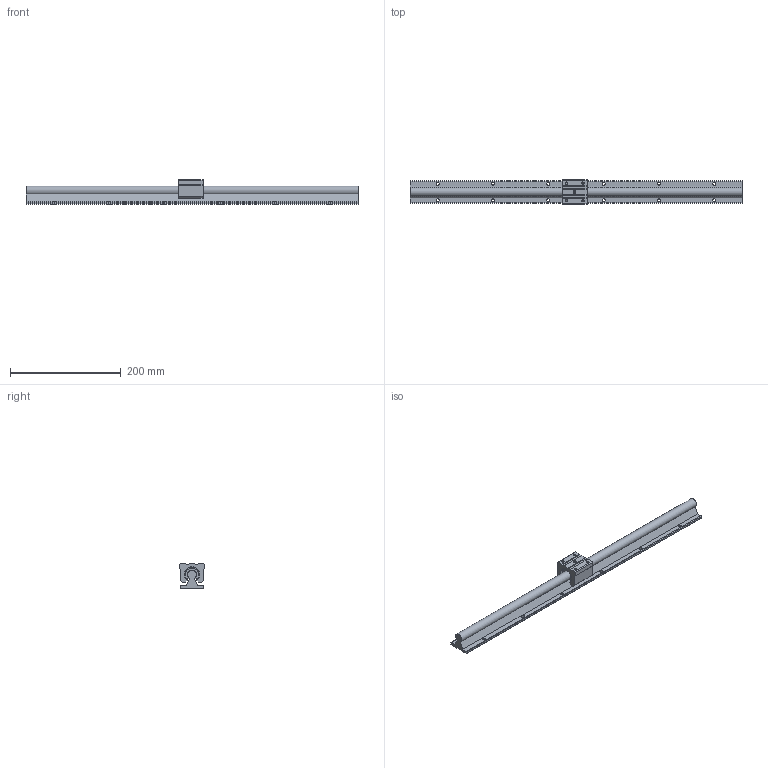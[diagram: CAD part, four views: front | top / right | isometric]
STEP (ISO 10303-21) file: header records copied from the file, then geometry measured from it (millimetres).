
FILE_DESCRIPTION((''),'2;1');
FILE_NAME('D:\製品 (図面)\カタログ用3D\リニアガイド関連\STEP形式\GHA(W)\GHAW16.stp','2010-06-08T09:14:57',('Tsuchiya'),(''),'Autodesk Inventor 10','Autodesk Inventor 10','');
FILE_SCHEMA(('AUTOMOTIVE_DESIGN { 1 0 10303 214 1 1 1 1 }'));
Length unit declared in the file: millimetre
Products named in the file (3): GHAW16; GHAW161; GHAW162
Assembly tree (2 placements, depth 2):
  GHAW16
    GHAW161
    GHAW162
Bounding box: 600 x 45 x 45 mm (x, y, z)
Volume: 398519.2 mm3; surface area: 98606.4 mm2
Topology: 2 solids, 2 shells, 171 faces, 461 edges, 303 vertices
Faces by surface type: plane 100, cylinder 46, bspline 10, torus 8, cone 7
Full cylindrical faces by diameter (mm): 5.5 x12, 8.5 x6, 8.9 x6
Entity records: 5097 total; most frequent: CARTESIAN_POINT 1110, DIRECTION 784, ORIENTED_EDGE 776, EDGE_CURVE 388, AXIS2_PLACEMENT_3D 276, VERTEX_POINT 276, EDGE_LOOP 254, VECTOR 232
